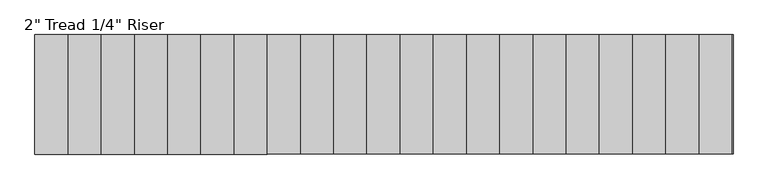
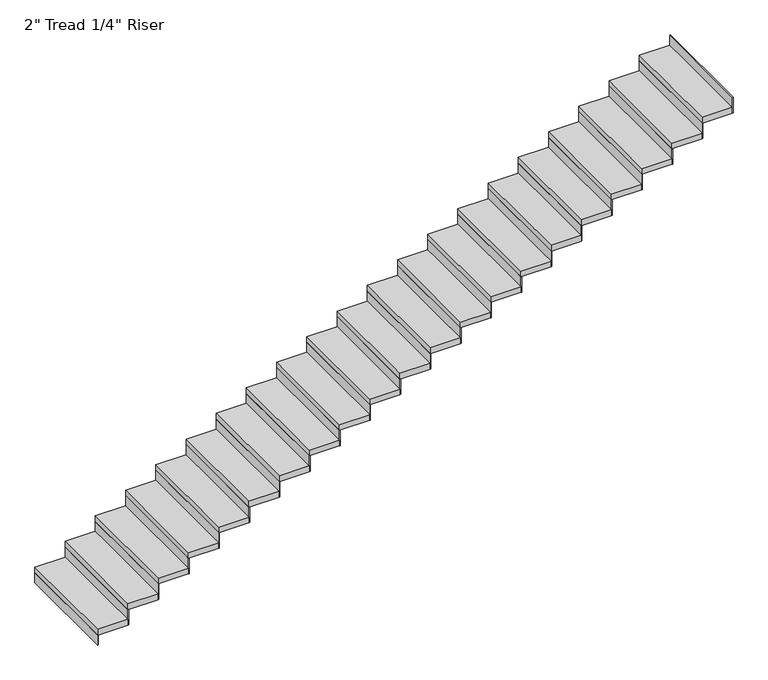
"""IFC4 building model written with IfcOpenShell, lengths in millimetres: stair flight geometry."""

import ifcopenshell
import ifcopenshell.guid

model = None  # the IFC model being written
_history = None  # IfcOwnerHistory: only IFC2X3 demands one
_inside = {}  # id of a spatial element -> (the spatial element, [elements in it])
_under = {}  # id of a project, library or spatial element -> (it, [spatial elements below it])
_declared = {}  # id of a project -> (the project, [libraries it declares])
_typed = {}  # id of a type object -> (the type object, [elements of that type])
_made_of = {}  # id of a material, layer set ... -> (it, [elements and type objects made of it])


def new_model(schema):
    """Start an empty IFC model of exactly this schema.

    Asked for "IFC4X3", IfcOpenShell would pick the latest addendum, in which some entities
    have other attributes; the version numbers below select the first issue.
    IFC2X3 requires an IfcOwnerHistory on every rooted entity: one is made here for all.
    """
    global model, _history
    if schema == "IFC4X3":
        model = ifcopenshell.file(schema_version=(4, 3, 0, 0))
    else:
        model = ifcopenshell.file(schema=schema)
    _inside.clear()
    _under.clear()
    _declared.clear()
    _typed.clear()
    _made_of.clear()
    _history = None
    if model.schema == "IFC2X3":
        org = make("IfcOrganization", Name="unknown")
        user = make(
            "IfcPersonAndOrganization",
            ThePerson=make("IfcPerson", FamilyName="unknown"),
            TheOrganization=org,
        )
        app = make(
            "IfcApplication",
            ApplicationDeveloper=org,
            Version="unknown",
            ApplicationFullName="unknown",
            ApplicationIdentifier="unknown",
        )
        _history = make(
            "IfcOwnerHistory",
            OwningUser=user,
            OwningApplication=app,
            ChangeAction="ADDED",
            CreationDate=0,
        )
    return model


def make(cls, **values):
    """One entity of the class cls with the attributes given. An attribute that is None is left unset."""
    return model.create_entity(
        cls, **{name: value for name, value in values.items() if value is not None}
    )


def rooted(cls, **values):
    """An entity with a GlobalId (a new one), such as an element, a storey or a relation."""
    return make(cls, GlobalId=ifcopenshell.guid.new(), OwnerHistory=_history, **values)


def si_unit(unit_type, name, prefix=None):
    """IfcSIUnit, for example si_unit("LENGTHUNIT", "METRE", prefix="MILLI")."""
    return make("IfcSIUnit", UnitType=unit_type, Prefix=prefix, Name=name)


def assignment(units):
    """IfcUnitAssignment: the units of a project."""
    return None if units is None else make("IfcUnitAssignment", Units=units)


def point(xyz):
    """IfcCartesianPoint."""
    return None if xyz is None else make("IfcCartesianPoint", Coordinates=xyz)


def direction(xyz):
    """IfcDirection."""
    return None if xyz is None else make("IfcDirection", DirectionRatios=xyz)


def frame(location, z_axis=None, x_axis=None):
    """IfcAxis2Placement3D, a coordinate frame: its origin and axes. An axis left out is left unset."""
    return make(
        "IfcAxis2Placement3D",
        Location=point(location),
        Axis=direction(z_axis),
        RefDirection=direction(x_axis),
    )


def origin():
    """The frame at (0, 0, 0) with its axes left unset."""
    return frame((0.0, 0.0, 0.0))


def origin_with_axes():
    """The frame at (0, 0, 0) with the z axis (0, 0, 1) and the x axis (1, 0, 0) written out."""
    return frame((0.0, 0.0, 0.0), z_axis=(0.0, 0.0, 1.0), x_axis=(1.0, 0.0, 0.0))


def place(relative_to, where):
    """IfcLocalPlacement: puts the frame where relative to a parent placement (None: the world)."""
    return make(
        "IfcLocalPlacement", PlacementRelTo=relative_to, RelativePlacement=where
    )


def context(
    kind, dimensions, precision=None, world=None, true_north=None, identifier=None
):
    """IfcGeometricRepresentationContext, for example the 3D "Model" context."""
    return make(
        "IfcGeometricRepresentationContext",
        ContextIdentifier=identifier,
        ContextType=kind,
        CoordinateSpaceDimension=dimensions,
        Precision=precision,
        WorldCoordinateSystem=world,
        TrueNorth=true_north,
    )


def project(units=None, contexts=None):
    """IfcProject with its units and contexts."""
    return rooted(
        "IfcProject",
        Name="project",
        RepresentationContexts=contexts,
        UnitsInContext=assignment(units),
    )


def spatial(cls, under=None, at=None, **own):
    """A site, building, storey or space (cls), placed at a placement, below another one or the project."""
    s = rooted(cls, ObjectPlacement=at, **own)
    if under is not None:
        _under.setdefault(under.id(), (under, []))[1].append(s)
    return s


def polyline(points):
    """IfcPolyline through the points."""
    return make("IfcPolyline", Points=[point(p) for p in points])


def outline(outer, holes=None, kind="AREA"):
    """IfcArbitraryClosedProfileDef: a profile drawn as a closed curve; with holes, ...WithVoids."""
    if holes is None:
        return make("IfcArbitraryClosedProfileDef", ProfileType=kind, OuterCurve=outer)
    return make(
        "IfcArbitraryProfileDefWithVoids",
        ProfileType=kind,
        OuterCurve=outer,
        InnerCurves=holes,
    )


def extrude(swept, where, along, depth):
    """IfcExtrudedAreaSolid: the profile swept, set in the frame where, extruded along a direction by depth."""
    return make(
        "IfcExtrudedAreaSolid",
        SweptArea=swept,
        Position=where,
        ExtrudedDirection=direction(along),
        Depth=depth,
    )


def shape(context_of_items, identifier, shape_type, items):
    """IfcShapeRepresentation: the items that make up one representation, for example the "Body"."""
    return make(
        "IfcShapeRepresentation",
        ContextOfItems=context_of_items,
        RepresentationIdentifier=identifier,
        RepresentationType=shape_type,
        Items=items,
    )


def source(mapping_origin, context_of_items, identifier, shape_type, items):
    """IfcRepresentationMap: a shape defined once, which mapped items show again and again."""
    return make(
        "IfcRepresentationMap",
        MappingOrigin=mapping_origin,
        MappedRepresentation=shape(context_of_items, identifier, shape_type, items),
    )


def transform(
    local_origin,
    x_axis=None,
    y_axis=None,
    z_axis=None,
    scale=None,
    scale2=None,
    scale3=None,
    uniform=True,
):
    """IfcCartesianTransformationOperator3D, or its non-uniform kind. x_axis, y_axis, z_axis: its Axis1, 2, 3."""
    if uniform:
        return make(
            "IfcCartesianTransformationOperator3D",
            Axis1=direction(x_axis),
            Axis2=direction(y_axis),
            LocalOrigin=point(local_origin),
            Scale=scale,
            Axis3=direction(z_axis),
        )
    return make(
        "IfcCartesianTransformationOperator3DnonUniform",
        Axis1=direction(x_axis),
        Axis2=direction(y_axis),
        LocalOrigin=point(local_origin),
        Scale=scale,
        Axis3=direction(z_axis),
        Scale2=scale2,
        Scale3=scale3,
    )


def mapped(mapping_source, mapping_target):
    """IfcMappedItem: shows the shape of a source again, moved by a transform."""
    return make(
        "IfcMappedItem", MappingSource=mapping_source, MappingTarget=mapping_target
    )


def made_of(thing, what):
    """Note that an element or type object is made of a material, layer set ...; save() writes the relation."""
    if what is not None:
        _made_of.setdefault(what.id(), (what, []))[1].append(thing)
    return thing


def element(
    cls,
    number,
    at=None,
    inside=None,
    cuts=None,
    type_object=None,
    material=None,
    context=None,
    identifier="Body",
    shape_type=None,
    held_by="IfcProductDefinitionShape",
    body=None,
    shapes=None,
    **own,
):
    """One element of the class cls, such as IfcWall. Its Tag is "e" and its number.

    at: its placement. inside: the storey or other place that contains it. cuts: it is an
    opening in that element (IfcRelVoidsElement). A single representation is given by context,
    identifier, shape_type and body (its items); several are given by shapes. held_by: the class
    of the entity that holds the representations. save() writes the other relations.
    """
    e = rooted(cls, Tag="e%d" % number, ObjectPlacement=at, **own)
    if body is not None:
        shapes = [shape(context, identifier, shape_type, body)]
    if shapes is not None:
        e.Representation = make(held_by, Representations=shapes)
    if inside is not None:
        _inside.setdefault(inside.id(), (inside, []))[1].append(e)
    if cuts is not None:
        rooted(
            "IfcRelVoidsElement", RelatingBuildingElement=cuts, RelatedOpeningElement=e
        )
    if type_object is not None:
        _typed.setdefault(type_object.id(), (type_object, []))[1].append(e)
    return made_of(e, material)


def aggregate(whole, parts):
    """IfcRelAggregates: a whole, such as a stair, and the parts it consists of."""
    return rooted("IfcRelAggregates", RelatingObject=whole, RelatedObjects=parts)


def save(model, path):
    """Write the relations noted so far, then the file.

    IfcRelAggregates (storeys below a building ...), IfcRelContainedInSpatialStructure (elements
    in a storey), IfcRelDefinesByType, IfcRelAssociatesMaterial and IfcRelDeclares: one each for
    every whole, place, type object, material and project.
    """
    for whole, parts in _under.values():
        aggregate(whole, parts)
    for where, things in _inside.values():
        rooted(
            "IfcRelContainedInSpatialStructure",
            RelatedElements=things,
            RelatingStructure=where,
        )
    for kind, things in _typed.values():
        rooted("IfcRelDefinesByType", RelatedObjects=things, RelatingType=kind)
    for what, things in _made_of.values():
        rooted("IfcRelAssociatesMaterial", RelatedObjects=things, RelatingMaterial=what)
    for by, libraries in _declared.values():
        rooted("IfcRelDeclares", RelatingContext=by, RelatedDefinitions=libraries)
    model.write(path)


def stair_flight_b749c277(model_context):
    return source(origin(), model_context, "Body", "SweptSolid", [
        extrude(outline(polyline([(47030.499343, -1704.035031), (47024.149343, -1704.035031), (47024.149343, -789.635031), (47030.499343, -789.635031), (47030.499343, -1704.035031)])), origin_with_axes(), (0.0, 0.0, 1.0), 87.7454545),
        extrude(outline(polyline([(47278.149343, -789.635031), (47278.149343, -1704.035031), (47024.149343, -1704.035031), (47024.149343, -789.635031), (47278.149343, -789.635031)])), frame((0.0, 0.0, 87.7454545), z_axis=(0.0, 0.0, 1.0), x_axis=(1.0, 0.0, 0.0)), (0.0, 0.0, 1.0), 50.8),
        extrude(outline(polyline([(47284.499343, -1704.035031), (47278.149343, -1704.035031), (47278.149343, -789.635031), (47284.499343, -789.635031), (47284.499343, -1704.035031)])), frame((0.0, 0.0, 87.7454545), z_axis=(0.0, 0.0, 1.0), x_axis=(1.0, 0.0, 0.0)), (0.0, 0.0, 1.0), 138.5454545),
        extrude(outline(polyline([(47532.149343, -789.635031), (47532.149343, -1704.035031), (47278.149343, -1704.035031), (47278.149343, -789.635031), (47532.149343, -789.635031)])), frame((0.0, 0.0, 226.2909091), z_axis=(0.0, 0.0, 1.0), x_axis=(1.0, 0.0, 0.0)), (0.0, 0.0, 1.0), 50.8),
        extrude(outline(polyline([(47538.499343, -1704.035031), (47532.149343, -1704.035031), (47532.149343, -789.635031), (47538.499343, -789.635031), (47538.499343, -1704.035031)])), frame((0.0, 0.0, 226.2909091), z_axis=(0.0, 0.0, 1.0), x_axis=(1.0, 0.0, 0.0)), (0.0, 0.0, 1.0), 138.5454545),
        extrude(outline(polyline([(47786.149343, -789.635031), (47786.149343, -1704.035031), (47532.149343, -1704.035031), (47532.149343, -789.635031), (47786.149343, -789.635031)])), frame((0.0, 0.0, 364.8363636), z_axis=(0.0, 0.0, 1.0), x_axis=(1.0, 0.0, 0.0)), (0.0, 0.0, 1.0), 50.8),
        extrude(outline(polyline([(47792.499343, -1704.035031), (47786.149343, -1704.035031), (47786.149343, -789.635031), (47792.499343, -789.635031), (47792.499343, -1704.035031)])), frame((0.0, 0.0, 364.8363636), z_axis=(0.0, 0.0, 1.0), x_axis=(1.0, 0.0, 0.0)), (0.0, 0.0, 1.0), 138.5454545),
        extrude(outline(polyline([(48040.149343, -789.635031), (48040.149343, -1704.035031), (47786.149343, -1704.035031), (47786.149343, -789.635031), (48040.149343, -789.635031)])), frame((0.0, 0.0, 503.3818182), z_axis=(0.0, 0.0, 1.0), x_axis=(1.0, 0.0, 0.0)), (0.0, 0.0, 1.0), 50.8),
        extrude(outline(polyline([(48046.499343, -1704.035031), (48040.149343, -1704.035031), (48040.149343, -789.635031), (48046.499343, -789.635031), (48046.499343, -1704.035031)])), frame((0.0, 0.0, 503.3818182), z_axis=(0.0, 0.0, 1.0), x_axis=(1.0, 0.0, 0.0)), (0.0, 0.0, 1.0), 138.5454545),
        extrude(outline(polyline([(48294.149343, -789.635031), (48294.149343, -1704.035031), (48040.149343, -1704.035031), (48040.149343, -789.635031), (48294.149343, -789.635031)])), frame((0.0, 0.0, 641.9272727), z_axis=(0.0, 0.0, 1.0), x_axis=(1.0, 0.0, 0.0)), (0.0, 0.0, 1.0), 50.8),
        extrude(outline(polyline([(48300.499343, -1704.035031), (48294.149343, -1704.035031), (48294.149343, -789.635031), (48300.499343, -789.635031), (48300.499343, -1704.035031)])), frame((0.0, 0.0, 641.9272727), z_axis=(0.0, 0.0, 1.0), x_axis=(1.0, 0.0, 0.0)), (0.0, 0.0, 1.0), 138.5454545),
        extrude(outline(polyline([(48548.149343, -789.635031), (48548.149343, -1704.035031), (48294.149343, -1704.035031), (48294.149343, -789.635031), (48548.149343, -789.635031)])), frame((0.0, 0.0, 780.4727273), z_axis=(0.0, 0.0, 1.0), x_axis=(1.0, 0.0, 0.0)), (0.0, 0.0, 1.0), 50.8),
        extrude(outline(polyline([(48554.499343, -1704.035031), (48548.149343, -1704.035031), (48548.149343, -789.635031), (48554.499343, -789.635031), (48554.499343, -1704.035031)])), frame((0.0, 0.0, 780.4727273), z_axis=(0.0, 0.0, 1.0), x_axis=(1.0, 0.0, 0.0)), (0.0, 0.0, 1.0), 138.5454545),
        extrude(outline(polyline([(48802.149343, -789.635031), (48802.149343, -1704.035031), (48548.149343, -1704.035031), (48548.149343, -789.635031), (48802.149343, -789.635031)])), frame((0.0, 0.0, 919.0181818), z_axis=(0.0, 0.0, 1.0), x_axis=(1.0, 0.0, 0.0)), (0.0, 0.0, 1.0), 50.8),
        extrude(outline(polyline([(48808.499343, -1704.035031), (48802.149343, -1704.035031), (48802.149343, -789.635031), (48808.499343, -789.635031), (48808.499343, -1704.035031)])), frame((0.0, 0.0, 919.0181818), z_axis=(0.0, 0.0, 1.0), x_axis=(1.0, 0.0, 0.0)), (0.0, 0.0, 1.0), 138.5454545),
        extrude(outline(polyline([(49056.149343, -789.635031), (49056.149343, -1704.035031), (48802.149343, -1704.035031), (48802.149343, -789.635031), (49056.149343, -789.635031)])), frame((0.0, 0.0, 1057.5636364), z_axis=(0.0, 0.0, 1.0), x_axis=(1.0, 0.0, 0.0)), (0.0, 0.0, 1.0), 50.8),
        extrude(outline(polyline([(49062.499343, -1704.035031), (49056.149343, -1704.035031), (49056.149343, -789.635031), (49062.499343, -789.635031), (49062.499343, -1704.035031)])), frame((0.0, 0.0, 1057.5636364), z_axis=(0.0, 0.0, 1.0), x_axis=(1.0, 0.0, 0.0)), (0.0, 0.0, 1.0), 138.5454545),
        extrude(outline(polyline([(49310.149343, -789.635031), (49310.149343, -1704.035031), (49056.149343, -1704.035031), (49056.149343, -789.635031), (49310.149343, -789.635031)])), frame((0.0, 0.0, 1196.1090909), z_axis=(0.0, 0.0, 1.0), x_axis=(1.0, 0.0, 0.0)), (0.0, 0.0, 1.0), 50.8),
        extrude(outline(polyline([(49316.499343, -1704.035031), (49310.149343, -1704.035031), (49310.149343, -789.635031), (49316.499343, -789.635031), (49316.499343, -1704.035031)])), frame((0.0, 0.0, 1196.1090909), z_axis=(0.0, 0.0, 1.0), x_axis=(1.0, 0.0, 0.0)), (0.0, 0.0, 1.0), 138.5454545),
        extrude(outline(polyline([(49564.149343, -789.635031), (49564.149343, -1704.035031), (49310.149343, -1704.035031), (49310.149343, -789.635031), (49564.149343, -789.635031)])), frame((0.0, 0.0, 1334.6545455), z_axis=(0.0, 0.0, 1.0), x_axis=(1.0, 0.0, 0.0)), (0.0, 0.0, 1.0), 50.8),
        extrude(outline(polyline([(49570.499343, -1704.035031), (49564.149343, -1704.035031), (49564.149343, -789.635031), (49570.499343, -789.635031), (49570.499343, -1704.035031)])), frame((0.0, 0.0, 1334.6545455), z_axis=(0.0, 0.0, 1.0), x_axis=(1.0, 0.0, 0.0)), (0.0, 0.0, 1.0), 138.5454545),
        extrude(outline(polyline([(49818.149343, -789.635031), (49818.149343, -1704.035031), (49564.149343, -1704.035031), (49564.149343, -789.635031), (49818.149343, -789.635031)])), frame((0.0, 0.0, 1473.2), z_axis=(0.0, 0.0, 1.0), x_axis=(1.0, 0.0, 0.0)), (0.0, 0.0, 1.0), 50.8),
        extrude(outline(polyline([(49824.499343, -1704.035031), (49818.149343, -1704.035031), (49818.149343, -789.635031), (49824.499343, -789.635031), (49824.499343, -1704.035031)])), frame((0.0, 0.0, 1473.2), z_axis=(0.0, 0.0, 1.0), x_axis=(1.0, 0.0, 0.0)), (0.0, 0.0, 1.0), 138.5454545),
        extrude(outline(polyline([(50072.149343, -789.635031), (50072.149343, -1704.035031), (49818.149343, -1704.035031), (49818.149343, -789.635031), (50072.149343, -789.635031)])), frame((0.0, 0.0, 1611.7454545), z_axis=(0.0, 0.0, 1.0), x_axis=(1.0, 0.0, 0.0)), (0.0, 0.0, 1.0), 50.8),
        extrude(outline(polyline([(50078.499343, -1704.035031), (50072.149343, -1704.035031), (50072.149343, -789.635031), (50078.499343, -789.635031), (50078.499343, -1704.035031)])), frame((0.0, 0.0, 1611.7454545), z_axis=(0.0, 0.0, 1.0), x_axis=(1.0, 0.0, 0.0)), (0.0, 0.0, 1.0), 138.5454545),
        extrude(outline(polyline([(50326.149343, -789.635031), (50326.149343, -1704.035031), (50072.149343, -1704.035031), (50072.149343, -789.635031), (50326.149343, -789.635031)])), frame((0.0, 0.0, 1750.2909091), z_axis=(0.0, 0.0, 1.0), x_axis=(1.0, 0.0, 0.0)), (0.0, 0.0, 1.0), 50.8),
        extrude(outline(polyline([(50332.499343, -1704.035031), (50326.149343, -1704.035031), (50326.149343, -789.635031), (50332.499343, -789.635031), (50332.499343, -1704.035031)])), frame((0.0, 0.0, 1750.2909091), z_axis=(0.0, 0.0, 1.0), x_axis=(1.0, 0.0, 0.0)), (0.0, 0.0, 1.0), 138.5454545),
        extrude(outline(polyline([(50580.149343, -789.635031), (50580.149343, -1704.035031), (50326.149343, -1704.035031), (50326.149343, -789.635031), (50580.149343, -789.635031)])), frame((0.0, 0.0, 1888.8363636), z_axis=(0.0, 0.0, 1.0), x_axis=(1.0, 0.0, 0.0)), (0.0, 0.0, 1.0), 50.8),
        extrude(outline(polyline([(50586.499343, -1704.035031), (50580.149343, -1704.035031), (50580.149343, -789.635031), (50586.499343, -789.635031), (50586.499343, -1704.035031)])), frame((0.0, 0.0, 1888.8363636), z_axis=(0.0, 0.0, 1.0), x_axis=(1.0, 0.0, 0.0)), (0.0, 0.0, 1.0), 138.5454545),
        extrude(outline(polyline([(50834.149343, -789.635031), (50834.149343, -1704.035031), (50580.149343, -1704.035031), (50580.149343, -789.635031), (50834.149343, -789.635031)])), frame((0.0, 0.0, 2027.3818182), z_axis=(0.0, 0.0, 1.0), x_axis=(1.0, 0.0, 0.0)), (0.0, 0.0, 1.0), 50.8),
        extrude(outline(polyline([(50840.499343, -1704.035031), (50834.149343, -1704.035031), (50834.149343, -789.635031), (50840.499343, -789.635031), (50840.499343, -1704.035031)])), frame((0.0, 0.0, 2027.3818182), z_axis=(0.0, 0.0, 1.0), x_axis=(1.0, 0.0, 0.0)), (0.0, 0.0, 1.0), 138.5454545),
        extrude(outline(polyline([(51088.149343, -789.635031), (51088.149343, -1704.035031), (50834.149343, -1704.035031), (50834.149343, -789.635031), (51088.149343, -789.635031)])), frame((0.0, 0.0, 2165.9272727), z_axis=(0.0, 0.0, 1.0), x_axis=(1.0, 0.0, 0.0)), (0.0, 0.0, 1.0), 50.8),
        extrude(outline(polyline([(51094.499343, -1704.035031), (51088.149343, -1704.035031), (51088.149343, -789.635031), (51094.499343, -789.635031), (51094.499343, -1704.035031)])), frame((0.0, 0.0, 2165.9272727), z_axis=(0.0, 0.0, 1.0), x_axis=(1.0, 0.0, 0.0)), (0.0, 0.0, 1.0), 138.5454545),
        extrude(outline(polyline([(51342.149343, -789.635031), (51342.149343, -1704.035031), (51088.149343, -1704.035031), (51088.149343, -789.635031), (51342.149343, -789.635031)])), frame((0.0, 0.0, 2304.4727273), z_axis=(0.0, 0.0, 1.0), x_axis=(1.0, 0.0, 0.0)), (0.0, 0.0, 1.0), 50.8),
        extrude(outline(polyline([(51348.499343, -1704.035031), (51342.149343, -1704.035031), (51342.149343, -789.635031), (51348.499343, -789.635031), (51348.499343, -1704.035031)])), frame((0.0, 0.0, 2304.4727273), z_axis=(0.0, 0.0, 1.0), x_axis=(1.0, 0.0, 0.0)), (0.0, 0.0, 1.0), 138.5454545),
        extrude(outline(polyline([(51596.149343, -789.635031), (51596.149343, -1704.035031), (51342.149343, -1704.035031), (51342.149343, -789.635031), (51596.149343, -789.635031)])), frame((0.0, 0.0, 2443.0181818), z_axis=(0.0, 0.0, 1.0), x_axis=(1.0, 0.0, 0.0)), (0.0, 0.0, 1.0), 50.8),
        extrude(outline(polyline([(51602.499343, -1704.035031), (51596.149343, -1704.035031), (51596.149343, -789.635031), (51602.499343, -789.635031), (51602.499343, -1704.035031)])), frame((0.0, 0.0, 2443.0181818), z_axis=(0.0, 0.0, 1.0), x_axis=(1.0, 0.0, 0.0)), (0.0, 0.0, 1.0), 138.5454545),
        extrude(outline(polyline([(51850.149343, -789.635031), (51850.149343, -1704.035031), (51596.149343, -1704.035031), (51596.149343, -789.635031), (51850.149343, -789.635031)])), frame((0.0, 0.0, 2581.5636364), z_axis=(0.0, 0.0, 1.0), x_axis=(1.0, 0.0, 0.0)), (0.0, 0.0, 1.0), 50.8),
        extrude(outline(polyline([(51856.499343, -1704.035031), (51850.149343, -1704.035031), (51850.149343, -789.635031), (51856.499343, -789.635031), (51856.499343, -1704.035031)])), frame((0.0, 0.0, 2581.5636364), z_axis=(0.0, 0.0, 1.0), x_axis=(1.0, 0.0, 0.0)), (0.0, 0.0, 1.0), 138.5454545),
        extrude(outline(polyline([(52104.149343, -789.635031), (52104.149343, -1704.035031), (51850.149343, -1704.035031), (51850.149343, -789.635031), (52104.149343, -789.635031)])), frame((0.0, 0.0, 2720.1090909), z_axis=(0.0, 0.0, 1.0), x_axis=(1.0, 0.0, 0.0)), (0.0, 0.0, 1.0), 50.8),
        extrude(outline(polyline([(52110.499343, -1704.035031), (52104.149343, -1704.035031), (52104.149343, -789.635031), (52110.499343, -789.635031), (52110.499343, -1704.035031)])), frame((0.0, 0.0, 2720.1090909), z_axis=(0.0, 0.0, 1.0), x_axis=(1.0, 0.0, 0.0)), (0.0, 0.0, 1.0), 138.5454545),
        extrude(outline(polyline([(52364.499343, -1704.035031), (52358.149343, -1704.035031), (52358.149343, -789.635031), (52364.499343, -789.635031), (52364.499343, -1704.035031)])), frame((0.0, 0.0, 2858.6545455), z_axis=(0.0, 0.0, 1.0), x_axis=(1.0, 0.0, 0.0)), (0.0, 0.0, 1.0), 138.5454545),
        extrude(outline(polyline([(52358.149343, -789.635031), (52358.149343, -1704.035031), (52104.149343, -1704.035031), (52104.149343, -789.635031), (52358.149343, -789.635031)])), frame((0.0, 0.0, 2858.6545455), z_axis=(0.0, 0.0, 1.0), x_axis=(1.0, 0.0, 0.0)), (0.0, 0.0, 1.0), 50.8),
    ])


if __name__ == "__main__":
    model = new_model("IFC4")
    model_context = context("Model", 3, world=origin())
    ifc_project = project(units=[si_unit("LENGTHUNIT", "METRE", prefix="MILLI")], contexts=[model_context])
    site = spatial("IfcSite", under=ifc_project)
    building = spatial("IfcBuilding", under=site)
    placement = place(None, origin())
    stair_flight_shape = stair_flight_b749c277(model_context)
    element("IfcStairFlight", 1, ObjectType="2\" Tread 1/4\" Riser", at=placement, inside=building, context=model_context, shape_type="MappedRepresentation", body=[
        mapped(stair_flight_shape, transform((0.0, 0.0, 0.0), x_axis=(1.0, 0.0, 0.0), y_axis=(0.0, 1.0, 0.0), z_axis=(0.0, 0.0, 1.0))),
    ])
    save(model, "model.ifc")
